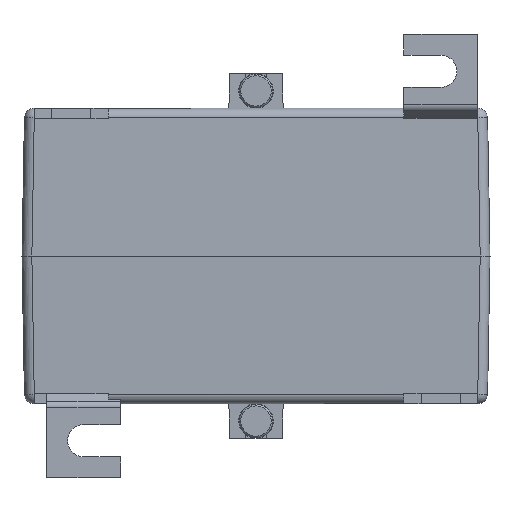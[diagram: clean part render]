
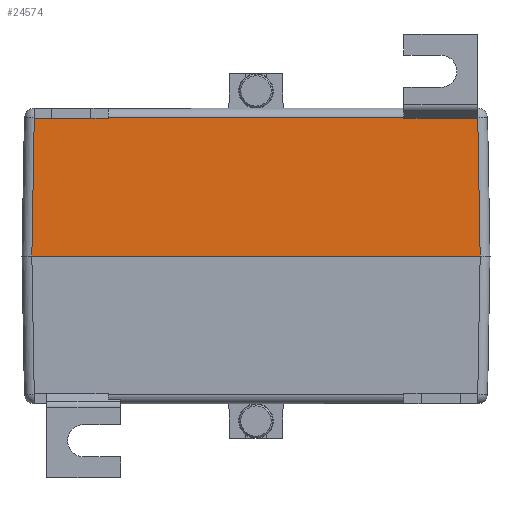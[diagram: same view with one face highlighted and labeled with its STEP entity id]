
A CAD part, front view. The second image highlights one B-rep face of the part: STEP entity #24574.
In plain terms, the highlighted planar face has unit normal (0, -1, 0.018).
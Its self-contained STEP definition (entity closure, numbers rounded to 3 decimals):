
#2450=FACE_OUTER_BOUND('',#3843,.T.);
#3843=EDGE_LOOP('',(#17204,#17205,#17206,#17207,#17208,#17209,#17210,#17211,
#17212,#17213,#17214,#17215));
#5650=LINE('',#33425,#8220);
#5666=LINE('',#33462,#8236);
#5690=LINE('',#33519,#8260);
#5707=LINE('',#33554,#8277);
#5731=LINE('',#33735,#8301);
#5986=LINE('',#35622,#8556);
#5987=LINE('',#35624,#8557);
#5988=LINE('',#35626,#8558);
#5989=LINE('',#35628,#8559);
#5990=LINE('',#35630,#8560);
#5991=LINE('',#35632,#8561);
#5992=LINE('',#35633,#8562);
#8220=VECTOR('',#27707,1000.);
#8236=VECTOR('',#27733,1000.);
#8260=VECTOR('',#27777,1000.);
#8277=VECTOR('',#27808,1000.);
#8301=VECTOR('',#27904,1000.);
#8556=VECTOR('',#28221,1000.);
#8557=VECTOR('',#28222,1000.);
#8558=VECTOR('',#28223,1000.);
#8559=VECTOR('',#28224,1000.);
#8560=VECTOR('',#28225,1000.);
#8561=VECTOR('',#28226,1000.);
#8562=VECTOR('',#28227,1000.);
#10785=VERTEX_POINT('',#33422);
#10786=VERTEX_POINT('',#33424);
#10802=VERTEX_POINT('',#33460);
#10824=VERTEX_POINT('',#33516);
#10825=VERTEX_POINT('',#33518);
#10885=VERTEX_POINT('',#33733);
#11222=VERTEX_POINT('',#35621);
#11223=VERTEX_POINT('',#35623);
#11224=VERTEX_POINT('',#35625);
#11225=VERTEX_POINT('',#35627);
#11226=VERTEX_POINT('',#35629);
#11227=VERTEX_POINT('',#35631);
#13077=EDGE_CURVE('',#10786,#10785,#5650,.T.);
#13095=EDGE_CURVE('',#10785,#10802,#5666,.T.);
#13121=EDGE_CURVE('',#10825,#10824,#5690,.T.);
#13140=EDGE_CURVE('',#10802,#10825,#5707,.T.);
#13193=EDGE_CURVE('',#10824,#10885,#5731,.T.);
#13547=EDGE_CURVE('',#10885,#11222,#5986,.T.);
#13548=EDGE_CURVE('',#11222,#11223,#5987,.T.);
#13549=EDGE_CURVE('',#11223,#11224,#5988,.T.);
#13550=EDGE_CURVE('',#11224,#11225,#5989,.T.);
#13551=EDGE_CURVE('',#11225,#11226,#5990,.T.);
#13552=EDGE_CURVE('',#11227,#11226,#5991,.T.);
#13553=EDGE_CURVE('',#11227,#10786,#5992,.T.);
#17204=ORIENTED_EDGE('',*,*,#13077,.T.);
#17205=ORIENTED_EDGE('',*,*,#13095,.T.);
#17206=ORIENTED_EDGE('',*,*,#13140,.T.);
#17207=ORIENTED_EDGE('',*,*,#13121,.T.);
#17208=ORIENTED_EDGE('',*,*,#13193,.T.);
#17209=ORIENTED_EDGE('',*,*,#13547,.T.);
#17210=ORIENTED_EDGE('',*,*,#13548,.T.);
#17211=ORIENTED_EDGE('',*,*,#13549,.T.);
#17212=ORIENTED_EDGE('',*,*,#13550,.T.);
#17213=ORIENTED_EDGE('',*,*,#13551,.T.);
#17214=ORIENTED_EDGE('',*,*,#13552,.F.);
#17215=ORIENTED_EDGE('',*,*,#13553,.T.);
#23647=PLANE('',#26047);
#24574=ADVANCED_FACE('',(#2450),#23647,.T.);
#26047=AXIS2_PLACEMENT_3D('',#35620,#28219,#28220);
#27707=DIRECTION('',(-1.,0.,0.));
#27733=DIRECTION('',(-0.009,-0.017,-1.));
#27777=DIRECTION('',(-0.009,0.017,1.));
#27808=DIRECTION('',(-1.,0.,0.));
#27904=DIRECTION('',(-1.,0.,0.));
#28219=DIRECTION('center_axis',(0.,-1.,0.017));
#28220=DIRECTION('ref_axis',(0.,-0.017,-1.));
#28221=DIRECTION('',(-0.009,-0.017,-1.));
#28222=DIRECTION('',(-1.,0.,0.));
#28223=DIRECTION('',(-0.009,0.017,1.));
#28224=DIRECTION('',(-1.,0.,0.));
#28225=DIRECTION('',(-0.017,-0.017,-1.));
#28226=DIRECTION('',(-1.,0.,0.));
#28227=DIRECTION('',(-0.017,0.017,1.));
#33422=CARTESIAN_POINT('',(44.983,-49.511,28.035));
#33424=CARTESIAN_POINT('',(45.011,-49.511,28.035));
#33425=CARTESIAN_POINT('',(-47.5,-49.511,28.035));
#33460=CARTESIAN_POINT('',(44.982,-49.511,27.988));
#33462=CARTESIAN_POINT('',(44.731,-50.014,-0.805));
#33516=CARTESIAN_POINT('',(30.017,-49.511,28.035));
#33518=CARTESIAN_POINT('',(30.018,-49.511,27.988));
#33519=CARTESIAN_POINT('',(30.256,-49.988,0.678));
#33554=CARTESIAN_POINT('',(-47.5,-49.511,27.988));
#33733=CARTESIAN_POINT('',(-30.017,-49.511,28.035));
#33735=CARTESIAN_POINT('',(-47.5,-49.511,28.035));
#35620=CARTESIAN_POINT('Origin',(-47.5,-50.,0.));
#35621=CARTESIAN_POINT('',(-30.018,-49.511,27.988));
#35622=CARTESIAN_POINT('',(-30.263,-50.003,-0.15));
#35623=CARTESIAN_POINT('',(-44.982,-49.511,27.988));
#35624=CARTESIAN_POINT('',(-47.5,-49.511,27.988));
#35625=CARTESIAN_POINT('',(-44.983,-49.511,28.035));
#35626=CARTESIAN_POINT('',(-44.738,-50.,0.024));
#35627=CARTESIAN_POINT('',(-45.011,-49.511,28.035));
#35628=CARTESIAN_POINT('',(-47.5,-49.511,28.035));
#35629=CARTESIAN_POINT('',(-45.5,-50.,0.));
#35630=CARTESIAN_POINT('',(-45.501,-50.001,-0.035));
#35631=CARTESIAN_POINT('',(45.5,-50.,0.));
#35632=CARTESIAN_POINT('',(47.5,-50.,0.));
#35633=CARTESIAN_POINT('',(45.472,-49.972,1.622));
